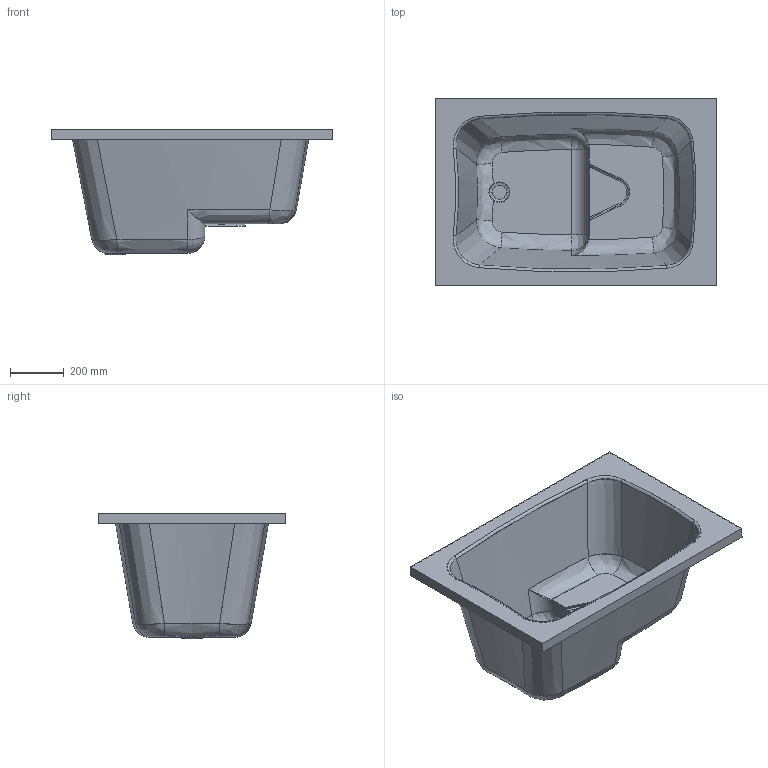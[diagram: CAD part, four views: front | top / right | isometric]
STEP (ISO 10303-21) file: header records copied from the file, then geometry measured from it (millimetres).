
FILE_DESCRIPTION(('STEP AP203'),'2;1');
FILE_NAME('BAT10570-A.stp','2015-07-31T12:34:22',(''),(''),'2014.1.117','THINKDESIGN','');
FILE_SCHEMA(('CONFIG_CONTROL_DESIGN'));
Length unit declared in the file: millimetre
Bounding box: 1050 x 700 x 468.97 mm (x, y, z)
Volume: 5049244 mm3; surface area: 3360046.1 mm2
Topology: 1 solids, 1 shells, 121 faces, 295 edges, 168 vertices
Faces by surface type: bspline 82, plane 23, cylinder 16
Entity records: 7471 total; most frequent: CARTESIAN_POINT 4949, ORIENTED_EDGE 574, DIRECTION 399, EDGE_CURVE 287, VERTEX_POINT 168, AXIS2_PLACEMENT_3D 165, CIRCLE 124, EDGE_LOOP 123
